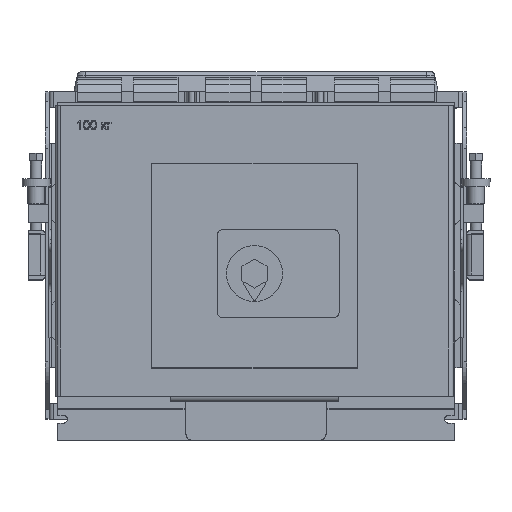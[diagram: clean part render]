
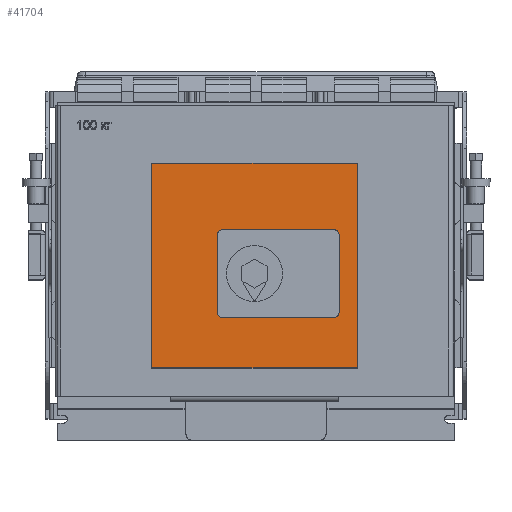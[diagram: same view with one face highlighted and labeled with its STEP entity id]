
A CAD part, top view. The second image highlights one B-rep face of the part: STEP entity #41704.
In plain terms, the highlighted planar face has unit normal (0, 0, 1).
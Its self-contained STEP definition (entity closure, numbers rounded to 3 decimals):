
#334 = ORIENTED_EDGE ( 'NONE', *, *, #21943, .F. ) ;
#455 = ORIENTED_EDGE ( 'NONE', *, *, #19808, .F. ) ;
#1619 = VECTOR ( 'NONE', #18324, 1000. ) ;
#1736 = VERTEX_POINT ( 'NONE', #6706 ) ;
#1986 = CIRCLE ( 'NONE', #32727, 5. ) ;
#2381 = CARTESIAN_POINT ( 'NONE',  ( 0., 0., 266.8 ) ) ;
#2385 = ORIENTED_EDGE ( 'NONE', *, *, #19255, .F. ) ;
#2582 = ORIENTED_EDGE ( 'NONE', *, *, #21323, .F. ) ;
#2817 = DIRECTION ( 'NONE',  ( 1., 0., 0. ) ) ;
#2924 = ORIENTED_EDGE ( 'NONE', *, *, #19996, .F. ) ;
#3396 = LINE ( 'NONE', #40483, #28261 ) ;
#3627 = VECTOR ( 'NONE', #38102, 1000. ) ;
#4072 = AXIS2_PLACEMENT_3D ( 'NONE', #2381, #28350, #9001 ) ;
#4492 = LINE ( 'NONE', #15123, #20702 ) ;
#4610 = VECTOR ( 'NONE', #30675, 1000. ) ;
#5429 = VERTEX_POINT ( 'NONE', #39999 ) ;
#5819 = VERTEX_POINT ( 'NONE', #16276 ) ;
#6533 = CARTESIAN_POINT ( 'NONE',  ( 100.9, 77., 266.8 ) ) ;
#6706 = CARTESIAN_POINT ( 'NONE',  ( 296.4, 225., 266.8 ) ) ;
#6889 = VECTOR ( 'NONE', #25924, 1000. ) ;
#6935 = AXIS2_PLACEMENT_3D ( 'NONE', #11829, #34382, #15053 ) ;
#8054 = CARTESIAN_POINT ( 'NONE',  ( 176.4, 131., 266.8 ) ) ;
#8542 = ORIENTED_EDGE ( 'NONE', *, *, #22200, .F. ) ;
#9001 = DIRECTION ( 'NONE',  ( 1., 0., 0. ) ) ;
#10176 = CARTESIAN_POINT ( 'NONE',  ( 176.4, 220., 266.8 ) ) ;
#10871 = VERTEX_POINT ( 'NONE', #20328 ) ;
#11161 = VECTOR ( 'NONE', #41550, 1000. ) ;
#11829 = CARTESIAN_POINT ( 'NONE',  ( 296.4, 136., 266.8 ) ) ;
#12724 = CARTESIAN_POINT ( 'NONE',  ( 176.4, 225., 266.8 ) ) ;
#13107 = ORIENTED_EDGE ( 'NONE', *, *, #20769, .F. ) ;
#13446 = DIRECTION ( 'NONE',  ( 1., 0., 0. ) ) ;
#13862 = DIRECTION ( 'NONE',  ( 0., 0., 1. ) ) ;
#14950 = EDGE_LOOP ( 'NONE', ( #27171, #20154, #17609, #36381 ) ) ;
#15053 = DIRECTION ( 'NONE',  ( 1., 0., 0. ) ) ;
#15123 = CARTESIAN_POINT ( 'NONE',  ( 320.9, 296., 266.8 ) ) ;
#15259 = EDGE_CURVE ( 'NONE', #27823, #19899, #20854, .T. ) ;
#15261 = VERTEX_POINT ( 'NONE', #28517 ) ;
#15585 = EDGE_LOOP ( 'NONE', ( #25173, #2385, #455, #2924, #13107, #2582, #334, #8542 ) ) ;
#16276 = CARTESIAN_POINT ( 'NONE',  ( 171.4, 220., 266.8 ) ) ;
#16865 = EDGE_CURVE ( 'NONE', #19899, #25903, #4492, .T. ) ;
#17595 = CARTESIAN_POINT ( 'NONE',  ( 301.4, 136., 266.8 ) ) ;
#17609 = ORIENTED_EDGE ( 'NONE', *, *, #17839, .T. ) ;
#17839 = EDGE_CURVE ( 'NONE', #25903, #5429, #33710, .T. ) ;
#17896 = LINE ( 'NONE', #37670, #1619 ) ;
#18324 = DIRECTION ( 'NONE',  ( 0., 1., 0. ) ) ;
#18353 = LINE ( 'NONE', #8054, #4610 ) ;
#18356 = DIRECTION ( 'NONE',  ( -1., 0., 0. ) ) ;
#18407 = EDGE_CURVE ( 'NONE', #5429, #27823, #26578, .T. ) ;
#19005 = EDGE_CURVE ( 'NONE', #15261, #1736, #19433, .T. ) ;
#19255 = EDGE_CURVE ( 'NONE', #25910, #15261, #17896, .T. ) ;
#19433 = CIRCLE ( 'NONE', #34009, 5. ) ;
#19718 = LINE ( 'NONE', #35065, #11161 ) ;
#19808 = EDGE_CURVE ( 'NONE', #33827, #25910, #21342, .T. ) ;
#19899 = VERTEX_POINT ( 'NONE', #21901 ) ;
#19996 = EDGE_CURVE ( 'NONE', #28780, #33827, #18353, .T. ) ;
#20154 = ORIENTED_EDGE ( 'NONE', *, *, #16865, .T. ) ;
#20328 = CARTESIAN_POINT ( 'NONE',  ( 171.4, 136., 266.8 ) ) ;
#20702 = VECTOR ( 'NONE', #18356, 1000. ) ;
#20769 = EDGE_CURVE ( 'NONE', #10871, #28780, #1986, .T. ) ;
#20854 = LINE ( 'NONE', #21969, #3627 ) ;
#21104 = DIRECTION ( 'NONE',  ( -1., 0., 0. ) ) ;
#21323 = EDGE_CURVE ( 'NONE', #5819, #10871, #19718, .T. ) ;
#21342 = CIRCLE ( 'NONE', #6935, 5. ) ;
#21901 = CARTESIAN_POINT ( 'NONE',  ( 320.9, 296., 266.8 ) ) ;
#21943 = EDGE_CURVE ( 'NONE', #34891, #5819, #28772, .T. ) ;
#21969 = CARTESIAN_POINT ( 'NONE',  ( 320.9, 77., 266.8 ) ) ;
#22200 = EDGE_CURVE ( 'NONE', #1736, #34891, #3396, .T. ) ;
#22226 = DIRECTION ( 'NONE',  ( 0., 0., 1. ) ) ;
#22967 = FACE_OUTER_BOUND ( 'NONE', #14950, .T. ) ;
#23934 = CARTESIAN_POINT ( 'NONE',  ( 100.9, 296., 266.8 ) ) ;
#24003 = CARTESIAN_POINT ( 'NONE',  ( 320.9, 77., 266.8 ) ) ;
#24922 = PLANE ( 'NONE',  #4072 ) ;
#25173 = ORIENTED_EDGE ( 'NONE', *, *, #19005, .F. ) ;
#25551 = VECTOR ( 'NONE', #32385, 1000. ) ;
#25753 = CARTESIAN_POINT ( 'NONE',  ( 296.4, 131., 266.8 ) ) ;
#25903 = VERTEX_POINT ( 'NONE', #23934 ) ;
#25910 = VERTEX_POINT ( 'NONE', #17595 ) ;
#25924 = DIRECTION ( 'NONE',  ( 0., -1., 0. ) ) ;
#26578 = LINE ( 'NONE', #38720, #25551 ) ;
#27171 = ORIENTED_EDGE ( 'NONE', *, *, #15259, .T. ) ;
#27823 = VERTEX_POINT ( 'NONE', #24003 ) ;
#28261 = VECTOR ( 'NONE', #21104, 1000. ) ;
#28350 = DIRECTION ( 'NONE',  ( 0., 0., 1. ) ) ;
#28517 = CARTESIAN_POINT ( 'NONE',  ( 301.4, 220., 266.8 ) ) ;
#28772 = CIRCLE ( 'NONE', #29490, 5. ) ;
#28780 = VERTEX_POINT ( 'NONE', #36250 ) ;
#29490 = AXIS2_PLACEMENT_3D ( 'NONE', #10176, #32776, #13446 ) ;
#30675 = DIRECTION ( 'NONE',  ( 1., 0., 0. ) ) ;
#32385 = DIRECTION ( 'NONE',  ( 1., 0., 0. ) ) ;
#32727 = AXIS2_PLACEMENT_3D ( 'NONE', #41590, #22226, #2817 ) ;
#32776 = DIRECTION ( 'NONE',  ( 0., 0., 1. ) ) ;
#33212 = CARTESIAN_POINT ( 'NONE',  ( 296.4, 220., 266.8 ) ) ;
#33710 = LINE ( 'NONE', #6533, #6889 ) ;
#33827 = VERTEX_POINT ( 'NONE', #25753 ) ;
#34009 = AXIS2_PLACEMENT_3D ( 'NONE', #33212, #13862, #36441 ) ;
#34382 = DIRECTION ( 'NONE',  ( 0., 0., 1. ) ) ;
#34891 = VERTEX_POINT ( 'NONE', #12724 ) ;
#35065 = CARTESIAN_POINT ( 'NONE',  ( 171.4, 220., 266.8 ) ) ;
#36250 = CARTESIAN_POINT ( 'NONE',  ( 176.4, 131., 266.8 ) ) ;
#36381 = ORIENTED_EDGE ( 'NONE', *, *, #18407, .T. ) ;
#36441 = DIRECTION ( 'NONE',  ( 1., 0., 0. ) ) ;
#37670 = CARTESIAN_POINT ( 'NONE',  ( 301.4, 136., 266.8 ) ) ;
#38102 = DIRECTION ( 'NONE',  ( 0., 1., 0. ) ) ;
#38720 = CARTESIAN_POINT ( 'NONE',  ( 320.9, 77., 266.8 ) ) ;
#39999 = CARTESIAN_POINT ( 'NONE',  ( 100.9, 77., 266.8 ) ) ;
#40175 = FACE_BOUND ( 'NONE', #15585, .T. ) ;
#40483 = CARTESIAN_POINT ( 'NONE',  ( 296.4, 225., 266.8 ) ) ;
#41550 = DIRECTION ( 'NONE',  ( 0., -1., 0. ) ) ;
#41590 = CARTESIAN_POINT ( 'NONE',  ( 176.4, 136., 266.8 ) ) ;
#41704 = ADVANCED_FACE ( 'NONE', ( #40175, #22967 ), #24922, .T. ) ;
